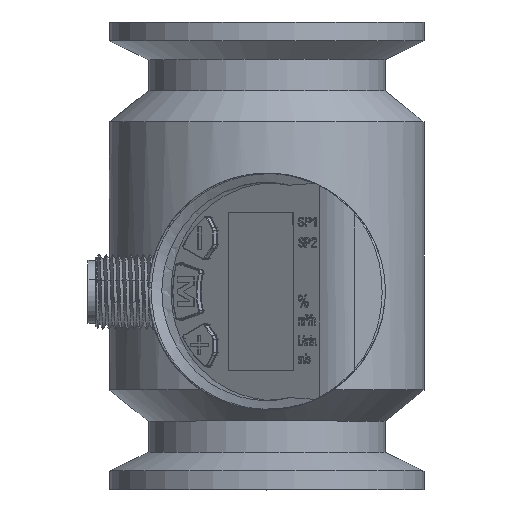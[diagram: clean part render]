
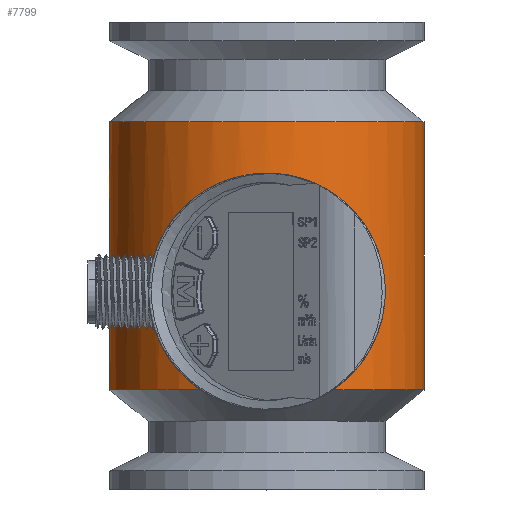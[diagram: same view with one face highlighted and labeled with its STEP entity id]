
A CAD part, top view. The second image highlights one B-rep face of the part: STEP entity #7799.
In plain terms, the highlighted cylindrical face has radius 25.25 mm (diameter 50.5 mm), a full revolution.
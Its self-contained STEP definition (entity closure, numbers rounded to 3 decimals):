
#6040=CYLINDRICAL_SURFACE('',#22726,25.25);
#6815=B_SPLINE_CURVE_WITH_KNOTS('',3,(#42913,#42914,#42915,#42916,#42917,
#42918,#42919,#42920,#42921,#42922,#42923,#42924,#42925,#42926,#42927,#42928,
#42929,#42930,#42931,#42932,#42933,#42934,#42935,#42936,#42937,#42938,#42939,
#42940),.UNSPECIFIED.,.F.,.F.,(4,2,2,2,2,2,2,2,2,2,2,2,2,4),(0.,0.063,
0.125,0.25,0.375,0.438,0.5,0.563,0.625,0.75,0.813,0.875,0.938,1.),
 .UNSPECIFIED.);
#7799=ADVANCED_FACE('',(#8633,#8634),#6040,.T.);
#8633=FACE_BOUND('',#9859,.T.);
#8634=FACE_BOUND('',#9860,.T.);
#9859=EDGE_LOOP('',(#15091));
#9860=EDGE_LOOP('',(#15092,#15093,#15094));
#10495=CIRCLE('',#22722,25.25);
#10496=CIRCLE('',#22723,25.25);
#10497=CIRCLE('',#22725,25.25);
#15091=ORIENTED_EDGE('',*,*,#19092,.T.);
#15092=ORIENTED_EDGE('',*,*,#19091,.T.);
#15093=ORIENTED_EDGE('',*,*,#19093,.T.);
#15094=ORIENTED_EDGE('',*,*,#19089,.T.);
#16759=VERTEX_POINT('',#42902);
#16760=VERTEX_POINT('',#42903);
#16761=VERTEX_POINT('',#42908);
#16762=VERTEX_POINT('',#42912);
#19089=EDGE_CURVE('',#16759,#16760,#10495,.T.);
#19091=EDGE_CURVE('',#16760,#16761,#10496,.T.);
#19092=EDGE_CURVE('',#16762,#16762,#10497,.T.);
#19093=EDGE_CURVE('',#16761,#16759,#6815,.T.);
#22722=AXIS2_PLACEMENT_3D('',#42901,#26747,#26748);
#22723=AXIS2_PLACEMENT_3D('',#42909,#26749,#26750);
#22725=AXIS2_PLACEMENT_3D('',#42911,#26753,#26754);
#22726=AXIS2_PLACEMENT_3D('',#42941,#26755,#26756);
#26747=DIRECTION('',(0.,1.,0.));
#26748=DIRECTION('',(1.,0.,0.));
#26749=DIRECTION('',(0.,1.,0.));
#26750=DIRECTION('',(1.,0.,0.));
#26753=DIRECTION('',(0.,-1.,0.));
#26754=DIRECTION('',(-1.,0.,0.));
#26755=DIRECTION('',(0.,1.,0.));
#26756=DIRECTION('',(1.,0.,0.));
#42901=CARTESIAN_POINT('',(25.516,20.9,-112.724));
#42902=CARTESIAN_POINT('',(27.501,20.9,-87.552));
#42903=CARTESIAN_POINT('',(50.766,20.9,-112.724));
#42908=CARTESIAN_POINT('',(23.505,20.9,-87.554));
#42909=CARTESIAN_POINT('',(25.516,20.9,-112.724));
#42911=CARTESIAN_POINT('',(25.516,63.9,-112.724));
#42912=CARTESIAN_POINT('',(0.266,63.9,-112.724));
#42913=CARTESIAN_POINT('',(23.505,20.9,-87.554));
#42914=CARTESIAN_POINT('',(21.636,21.195,-87.704));
#42915=CARTESIAN_POINT('',(19.849,21.912,-88.066));
#42916=CARTESIAN_POINT('',(16.759,23.942,-88.986));
#42917=CARTESIAN_POINT('',(15.444,25.245,-89.54));
#42918=CARTESIAN_POINT('',(12.262,29.783,-91.103));
#42919=CARTESIAN_POINT('',(11.224,33.569,-91.907));
#42920=CARTESIAN_POINT('',(11.653,41.2,-91.619));
#42921=CARTESIAN_POINT('',(13.124,44.835,-90.563));
#42922=CARTESIAN_POINT('',(16.797,48.879,-88.99));
#42923=CARTESIAN_POINT('',(18.292,50.017,-88.468));
#42924=CARTESIAN_POINT('',(21.658,51.603,-87.711));
#42925=CARTESIAN_POINT('',(23.554,52.05,-87.479));
#42926=CARTESIAN_POINT('',(27.362,52.064,-87.47));
#42927=CARTESIAN_POINT('',(29.274,51.627,-87.695));
#42928=CARTESIAN_POINT('',(32.671,50.047,-88.447));
#42929=CARTESIAN_POINT('',(34.17,48.913,-88.966));
#42930=CARTESIAN_POINT('',(37.872,44.861,-90.542));
#42931=CARTESIAN_POINT('',(39.343,41.217,-91.595));
#42932=CARTESIAN_POINT('',(39.677,35.534,-91.819));
#42933=CARTESIAN_POINT('',(39.476,33.607,-91.676));
#42934=CARTESIAN_POINT('',(38.476,29.974,-91.046));
#42935=CARTESIAN_POINT('',(37.69,28.282,-90.572));
#42936=CARTESIAN_POINT('',(35.568,25.252,-89.532));
#42937=CARTESIAN_POINT('',(34.278,23.966,-88.988));
#42938=CARTESIAN_POINT('',(31.161,21.911,-88.06));
#42939=CARTESIAN_POINT('',(29.386,21.198,-87.701));
#42940=CARTESIAN_POINT('',(27.501,20.9,-87.552));
#42941=CARTESIAN_POINT('',(25.516,-14.1,-112.724));
